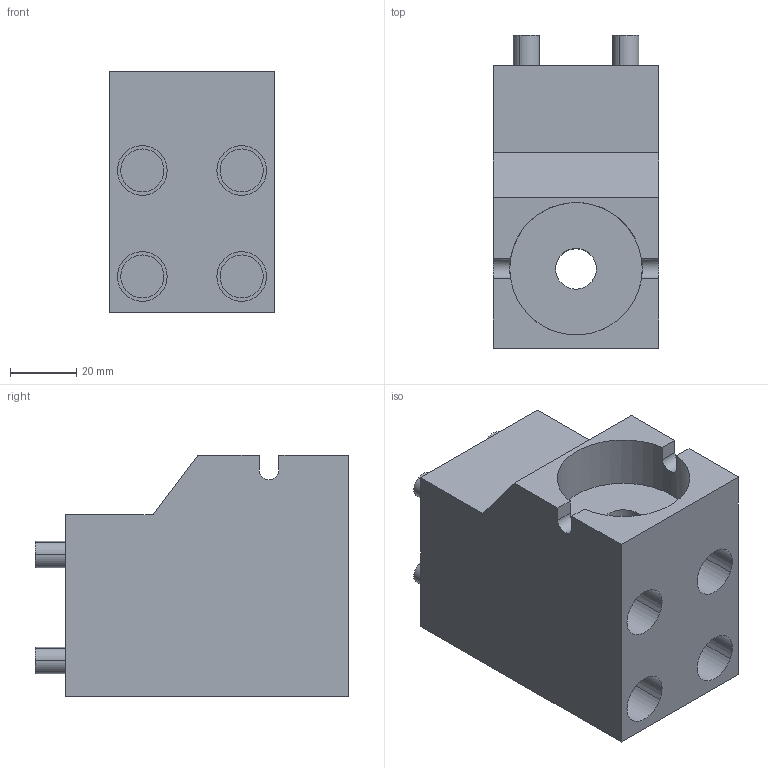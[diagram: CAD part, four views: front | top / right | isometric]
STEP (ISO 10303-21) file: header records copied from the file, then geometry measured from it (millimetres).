
FILE_DESCRIPTION(('STEP AP214'),'1');
FILE_NAME('EGT198_I_1720297_RD40_K50_HU.CATPart.stp','2015-09-14T13:12:42',('3D-Tool'),(' '),'Spatial InterOp 3D',' ',' ');
FILE_SCHEMA(('automotive_design'));
Length unit declared in the file: millimetre
Products named in the file (5): EGT198_I_1720297_RD40_K50_HU|EGT198_RD40_K50_HU|Bohrbearbeitung; 1; 2; 3; 4
Bounding box: 50 x 94.5 x 73 mm (x, y, z)
Volume: 243697.4 mm3; surface area: 50776.4 mm2
Topology: 5 solids, 5 shells, 104 faces, 258 edges, 172 vertices
Faces by surface type: cylinder 74, plane 30
Entity records: 4198 total; most frequent: DIRECTION 618, CARTESIAN_POINT 607, ORIENTED_EDGE 516, EDGE_CURVE 258, AXIS2_PLACEMENT_3D 255, VERTEX_POINT 172, CIRCLE 146, EDGE_LOOP 122
